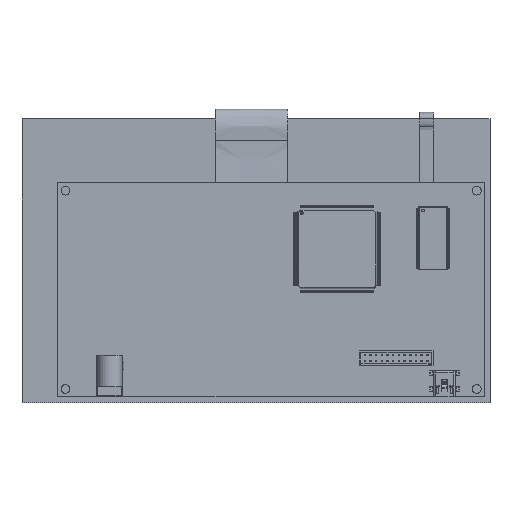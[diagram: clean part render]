
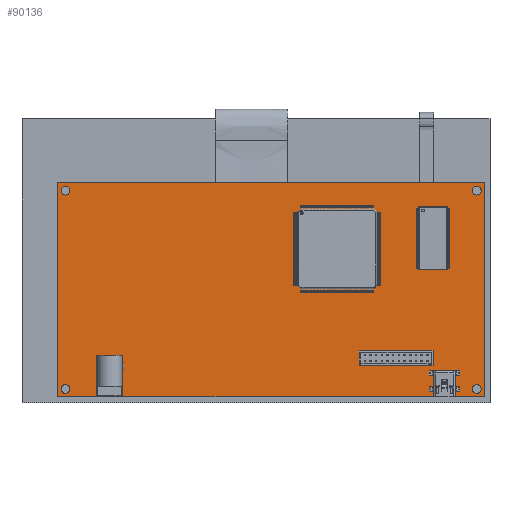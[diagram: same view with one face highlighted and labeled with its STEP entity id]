
A CAD part, top view. The second image highlights one B-rep face of the part: STEP entity #90136.
In plain terms, the highlighted planar face has unit normal (0, 0, 1).
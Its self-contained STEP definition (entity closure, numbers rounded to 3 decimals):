
#228=LINE('',#127565,#10534);
#229=LINE('',#127567,#10535);
#230=LINE('',#127569,#10536);
#231=LINE('',#127570,#10537);
#10534=VECTOR('',#102415,100.);
#10535=VECTOR('',#102416,100.);
#10536=VECTOR('',#102417,100.);
#10537=VECTOR('',#102418,100.);
#20840=PLANE('',#94973);
#28273=FACE_BOUND('',#33468,.T.);
#28274=FACE_BOUND('',#33469,.T.);
#28275=FACE_BOUND('',#33470,.T.);
#28276=FACE_BOUND('',#33471,.T.);
#28645=FACE_OUTER_BOUND('',#33467,.T.);
#33467=EDGE_LOOP('',(#62830,#62831,#62832,#62833));
#33468=EDGE_LOOP('',(#62834));
#33469=EDGE_LOOP('',(#62835));
#33470=EDGE_LOOP('',(#62836));
#33471=EDGE_LOOP('',(#62837));
#38649=CIRCLE('',#94962,0.154);
#38651=CIRCLE('',#94965,0.154);
#38653=CIRCLE('',#94968,0.154);
#38655=CIRCLE('',#94971,0.154);
#41256=VERTEX_POINT('',#127543);
#41258=VERTEX_POINT('',#127548);
#41260=VERTEX_POINT('',#127553);
#41262=VERTEX_POINT('',#127558);
#41264=VERTEX_POINT('',#127563);
#41265=VERTEX_POINT('',#127564);
#41266=VERTEX_POINT('',#127566);
#41267=VERTEX_POINT('',#127568);
#49817=EDGE_CURVE('',#41256,#41256,#38649,.T.);
#49819=EDGE_CURVE('',#41258,#41258,#38651,.T.);
#49821=EDGE_CURVE('',#41260,#41260,#38653,.T.);
#49823=EDGE_CURVE('',#41262,#41262,#38655,.T.);
#49825=EDGE_CURVE('',#41264,#41265,#228,.T.);
#49826=EDGE_CURVE('',#41264,#41266,#229,.T.);
#49827=EDGE_CURVE('',#41266,#41267,#230,.T.);
#49828=EDGE_CURVE('',#41265,#41267,#231,.T.);
#62830=ORIENTED_EDGE('',*,*,#49825,.F.);
#62831=ORIENTED_EDGE('',*,*,#49826,.T.);
#62832=ORIENTED_EDGE('',*,*,#49827,.T.);
#62833=ORIENTED_EDGE('',*,*,#49828,.F.);
#62834=ORIENTED_EDGE('',*,*,#49821,.T.);
#62835=ORIENTED_EDGE('',*,*,#49819,.F.);
#62836=ORIENTED_EDGE('',*,*,#49817,.T.);
#62837=ORIENTED_EDGE('',*,*,#49823,.F.);
#90136=ADVANCED_FACE('',(#28645,#28273,#28274,#28275,#28276),#20840,.F.);
#94962=AXIS2_PLACEMENT_3D('',#127544,#102391,#102392);
#94965=AXIS2_PLACEMENT_3D('',#127549,#102397,#102398);
#94968=AXIS2_PLACEMENT_3D('',#127554,#102403,#102404);
#94971=AXIS2_PLACEMENT_3D('',#127559,#102409,#102410);
#94973=AXIS2_PLACEMENT_3D('',#127562,#102413,#102414);
#102391=DIRECTION('center_axis',(0.,0.,-1.));
#102392=DIRECTION('ref_axis',(-1.,0.,0.));
#102397=DIRECTION('center_axis',(0.,0.,1.));
#102398=DIRECTION('ref_axis',(-1.,0.,0.));
#102403=DIRECTION('center_axis',(0.,0.,-1.));
#102404=DIRECTION('ref_axis',(-1.,0.,0.));
#102409=DIRECTION('center_axis',(0.,0.,1.));
#102410=DIRECTION('ref_axis',(-1.,0.,0.));
#102413=DIRECTION('center_axis',(0.,0.,-1.));
#102414=DIRECTION('ref_axis',(-1.,0.,0.));
#102415=DIRECTION('',(0.,1.,0.));
#102416=DIRECTION('',(1.,0.,0.));
#102417=DIRECTION('',(0.,1.,0.));
#102418=DIRECTION('',(1.,0.,0.));
#127543=CARTESIAN_POINT('',(19.904,24.75,0.19));
#127544=CARTESIAN_POINT('Origin',(20.057,24.75,0.19));
#127548=CARTESIAN_POINT('',(19.904,17.765,0.19));
#127549=CARTESIAN_POINT('Origin',(20.057,17.765,0.19));
#127553=CARTESIAN_POINT('',(34.397,17.765,0.19));
#127554=CARTESIAN_POINT('Origin',(34.55,17.765,0.19));
#127558=CARTESIAN_POINT('',(34.397,24.75,0.19));
#127559=CARTESIAN_POINT('Origin',(34.55,24.75,0.19));
#127562=CARTESIAN_POINT('Origin',(0.,0.,0.19));
#127563=CARTESIAN_POINT('',(19.789,17.485,0.19));
#127564=CARTESIAN_POINT('',(19.789,25.029,0.19));
#127565=CARTESIAN_POINT('',(19.789,17.485,0.19));
#127566=CARTESIAN_POINT('',(34.818,17.485,0.19));
#127567=CARTESIAN_POINT('',(19.789,17.485,0.19));
#127568=CARTESIAN_POINT('',(34.818,25.029,0.19));
#127569=CARTESIAN_POINT('',(34.818,17.485,0.19));
#127570=CARTESIAN_POINT('',(19.789,25.029,0.19));
